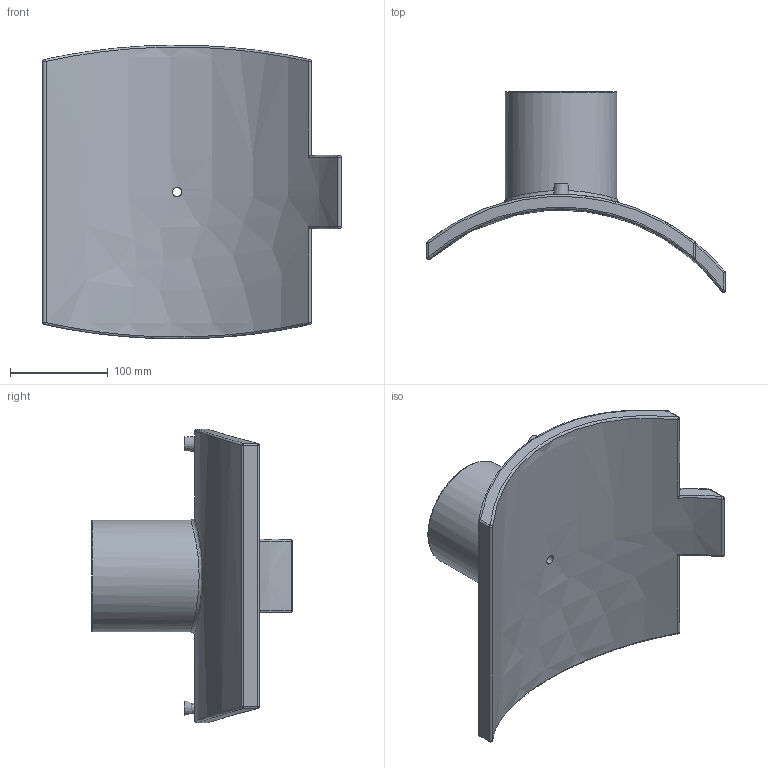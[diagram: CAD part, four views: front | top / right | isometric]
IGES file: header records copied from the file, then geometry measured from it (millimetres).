
Global section: file name: 5958BB03160040.ipt; native system: Autodesk Inventor 2019; preprocessor: unknown; author: KIM; date: 20210830.101230; units: inch
Bounding box: 304.8 x 204.55 x 299.9 mm (x, y, z)
Volume: 1744409.9 mm3; surface area: 270568.1 mm2
Topology: 2 solids, 2 shells, 66 faces, 132 edges, 78 vertices
Faces by surface type: cylinder 22, plane 14, sphere 12, revolution 11, bspline 5, cone 2
Full cylindrical faces by diameter (mm): 4 x2, 16 x1, 114.1 x1
